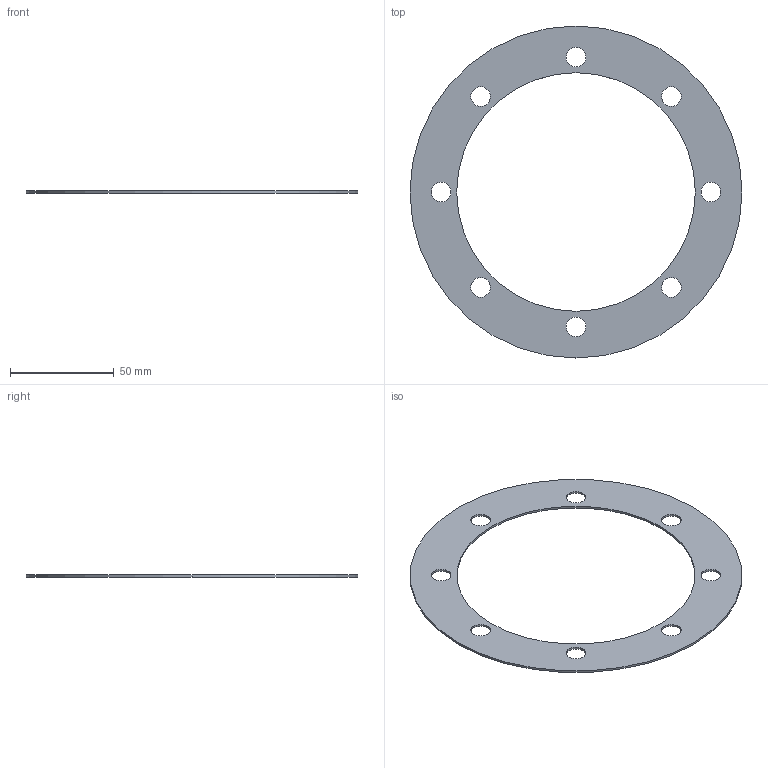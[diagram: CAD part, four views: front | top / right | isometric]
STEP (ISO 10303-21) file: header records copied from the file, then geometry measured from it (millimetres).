
FILE_DESCRIPTION (( 'STEP AP203' ), '1' );
FILE_NAME ('GL160.STEP', '2015-09-11T12:18:58', ( '' ), ( '' ), 'SwSTEP 2.0', 'SolidWorks 2015', '' );
FILE_SCHEMA (( 'CONFIG_CONTROL_DESIGN' ));
Length unit declared in the file: millimetre
Products named in the file (1): GL160
Bounding box: 160 x 160 x 1 mm (x, y, z)
Volume: 9152.2 mm3; surface area: 19407.2 mm2
Topology: 1 solids, 1 shells, 22 faces, 60 edges, 40 vertices
Faces by surface type: cylinder 20, plane 2
Entity records: 837 total; most frequent: DIRECTION 146, CARTESIAN_POINT 123, ORIENTED_EDGE 120, AXIS2_PLACEMENT_3D 63, EDGE_CURVE 60, CIRCLE 40, VERTEX_POINT 40, EDGE_LOOP 40
